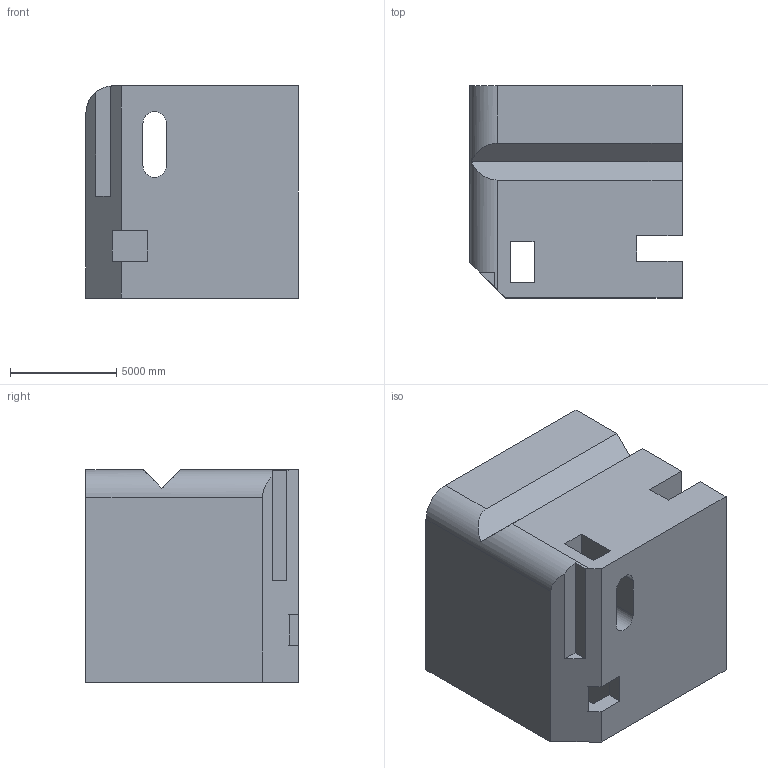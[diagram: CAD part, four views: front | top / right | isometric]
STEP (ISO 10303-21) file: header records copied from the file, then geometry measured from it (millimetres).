
FILE_DESCRIPTION (( 'STEP AP203' ), '1' );
FILE_NAME ('353.STEP', '2022-09-07T13:07:01', ( 'user' ), ( '' ), 'SwSTEP 2.0', 'SolidWorks 2021', '' );
FILE_SCHEMA (( 'CONFIG_CONTROL_DESIGN' ));
Length unit declared in the file: centimetre
Products named in the file (1): 353
Bounding box: 10000 x 10000 x 10000 mm (x, y, z)
Volume: 885379129337.5 mm3; surface area: 762517861.8 mm2
Topology: 1 solids, 1 shells, 36 faces, 114 edges, 76 vertices
Faces by surface type: plane 32, cylinder 4
Entity records: 1343 total; most frequent: CARTESIAN_POINT 239, ORIENTED_EDGE 228, DIRECTION 196, EDGE_CURVE 114, VECTOR 98, LINE 98, VERTEX_POINT 76, AXIS2_PLACEMENT_3D 49
